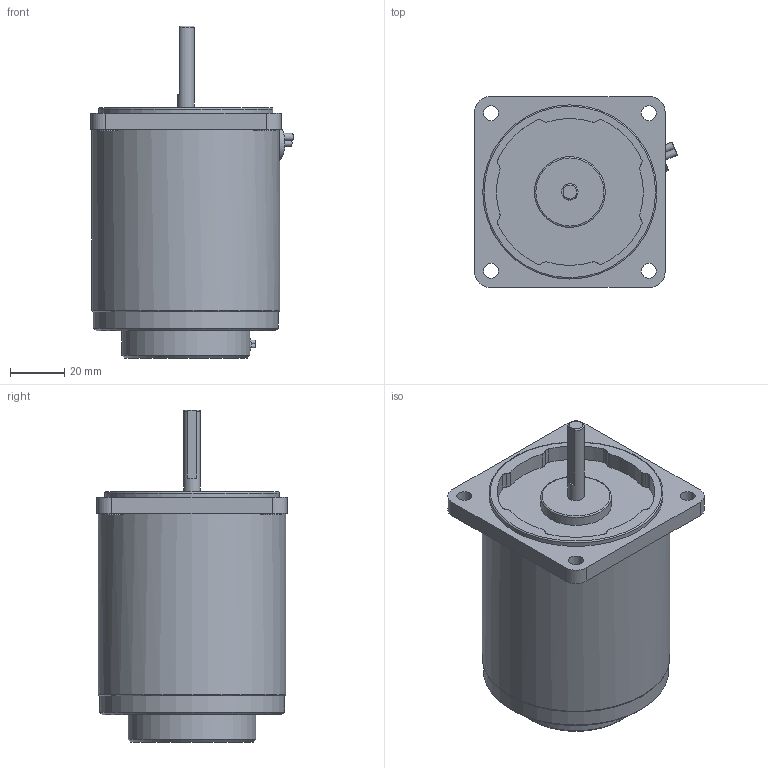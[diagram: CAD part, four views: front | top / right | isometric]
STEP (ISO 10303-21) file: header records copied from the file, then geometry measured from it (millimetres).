
FILE_DESCRIPTION((''),'2;1');
FILE_NAME('C:\Users\AHN\Desktop\K7IS15Nㅁ-Sㅁ(17.03.20-D-CUT 추가)\K7IS15Nㅁ-Sㅁ(17.03.20-D-CUT 추가).stp','2017-03-20T12:44:21',('AHN'),(''),'Autodesk Inventor 2009','Autodesk Inventor 2009','');
FILE_SCHEMA(('AUTOMOTIVE_DESIGN { 1 0 10303 214 1 1 1 1 }'));
Length unit declared in the file: millimetre
Products named in the file (1): K7IS15Nㅁ-Sㅁ(17.03.20-D-CUT 추가)
Bounding box: 74.51 x 70 x 122 mm (x, y, z)
Volume: 316816.7 mm3; surface area: 31506.7 mm2
Topology: 1 solids, 1 shells, 83 faces, 194 edges, 121 vertices
Faces by surface type: cylinder 50, plane 27, torus 4, cone 2
Full cylindrical faces by diameter (mm): 1.4 x2, 2.6 x2, 5.5 x4, 6 x1, 7 x1, 8 x4, 26 x1, 47 x1, 64 x1, 68 x1, 69 x1
Entity records: 2458 total; most frequent: CARTESIAN_POINT 541, DIRECTION 440, ORIENTED_EDGE 336, AXIS2_PLACEMENT_3D 192, EDGE_CURVE 168, EDGE_LOOP 123, VERTEX_POINT 115, CIRCLE 108
